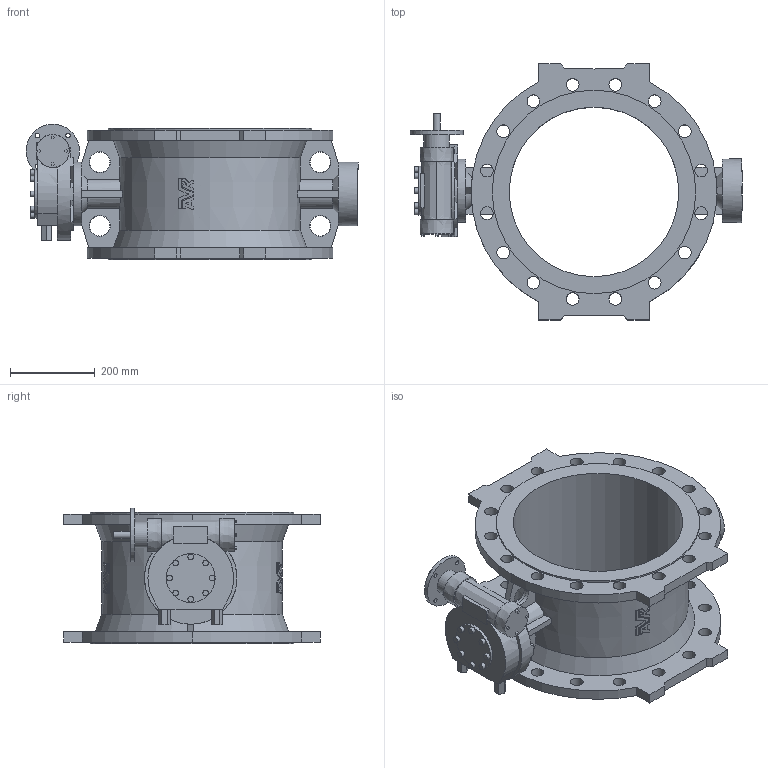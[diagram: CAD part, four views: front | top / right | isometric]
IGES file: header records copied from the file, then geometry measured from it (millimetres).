
Start section: SolidWorks IGES file using analytic representation for surfaces
Global section: file name: \\avksan2\techshare\PBM outline export from Enovia\O_756_102_DN400_0XX_AA0_igs.igs; native system: SolidWorks 2012; preprocessor: SolidWorks 2012; author: pbm; date: 160309.115429; units: millimetre
Bounding box: 783 x 604 x 319.6 mm (x, y, z)
Surface area: 1747222.8 mm2 (no closed solid volume)
Topology: 0 solids, 0 shells, 428 faces, 3258 edges, 3145 vertices
Faces by surface type: bspline 317, revolution 111
